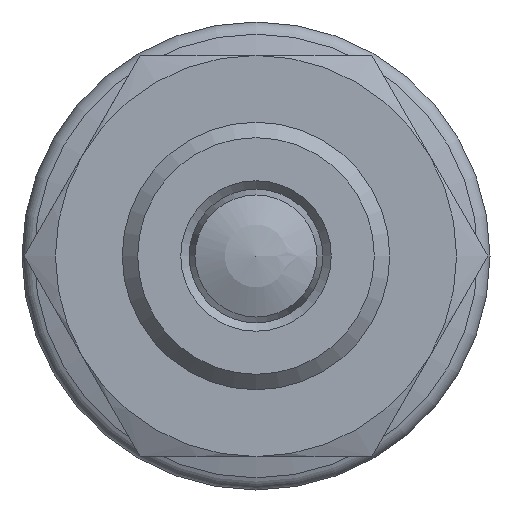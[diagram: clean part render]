
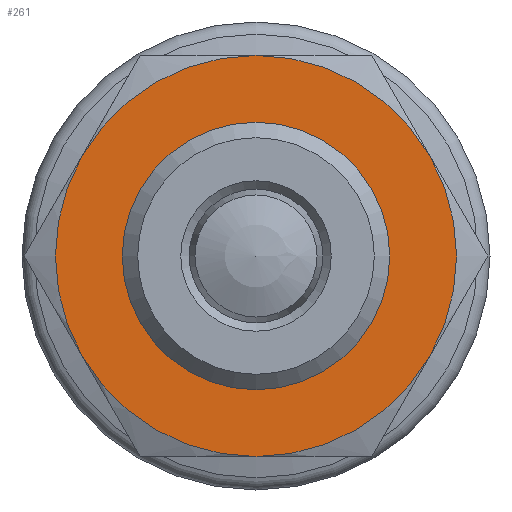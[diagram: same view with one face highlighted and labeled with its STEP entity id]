
A CAD part, left-side view. The second image highlights one B-rep face of the part: STEP entity #261.
In plain terms, the highlighted planar face has unit normal (-1, 0, 0) as drawn and (1, 0, 0) by its records, which use the part's own axes.
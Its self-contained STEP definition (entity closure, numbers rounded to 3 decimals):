
#261 = ADVANCED_FACE( '', ( #441, #442 ), #443, .F. );
#441 = FACE_BOUND( '', #645, .T. );
#442 = FACE_OUTER_BOUND( '', #646, .T. );
#443 = PLANE( '', #647 );
#645 = EDGE_LOOP( '', ( #1011 ) );
#646 = EDGE_LOOP( '', ( #1012, #1013, #1014, #1015, #1016, #1017 ) );
#647 = AXIS2_PLACEMENT_3D( '', #1018, #1019, #1020 );
#1011 = ORIENTED_EDGE( '', *, *, #1231, .F. );
#1012 = ORIENTED_EDGE( '', *, *, #1232, .T. );
#1013 = ORIENTED_EDGE( '', *, *, #1233, .T. );
#1014 = ORIENTED_EDGE( '', *, *, #1234, .T. );
#1015 = ORIENTED_EDGE( '', *, *, #1235, .T. );
#1016 = ORIENTED_EDGE( '', *, *, #1236, .T. );
#1017 = ORIENTED_EDGE( '', *, *, #1237, .T. );
#1018 = CARTESIAN_POINT( '', ( 8., 12., 0. ) );
#1019 = DIRECTION( '', ( -1., 0., 0. ) );
#1020 = DIRECTION( '', ( 0., 0., 1. ) );
#1231 = EDGE_CURVE( '', #1419, #1419, #1420, .T. );
#1232 = EDGE_CURVE( '', #1421, #1422, #1423, .T. );
#1233 = EDGE_CURVE( '', #1422, #1401, #1424, .T. );
#1234 = EDGE_CURVE( '', #1401, #1392, #1425, .T. );
#1235 = EDGE_CURVE( '', #1392, #1413, #1426, .T. );
#1236 = EDGE_CURVE( '', #1413, #1427, #1428, .T. );
#1237 = EDGE_CURVE( '', #1427, #1421, #1429, .T. );
#1392 = VERTEX_POINT( '', #1931 );
#1401 = VERTEX_POINT( '', #1961 );
#1413 = VERTEX_POINT( '', #1999 );
#1419 = VERTEX_POINT( '', #2029 );
#1420 = CIRCLE( '', #2030, 8. );
#1421 = VERTEX_POINT( '', #2031 );
#1422 = VERTEX_POINT( '', #2032 );
#1423 = CIRCLE( '', #2033, 12. );
#1424 = CIRCLE( '', #2034, 12. );
#1425 = CIRCLE( '', #2035, 12. );
#1426 = CIRCLE( '', #2036, 12. );
#1427 = VERTEX_POINT( '', #2037 );
#1428 = CIRCLE( '', #2038, 12. );
#1429 = CIRCLE( '', #2039, 12. );
#1931 = CARTESIAN_POINT( '', ( 8., 0., 12. ) );
#1961 = CARTESIAN_POINT( '', ( 8., 10.392, 6. ) );
#1999 = CARTESIAN_POINT( '', ( 8., -10.392, 6. ) );
#2029 = CARTESIAN_POINT( '', ( 8., 0., -8. ) );
#2030 = AXIS2_PLACEMENT_3D( '', #2293, #2294, #2295 );
#2031 = CARTESIAN_POINT( '', ( 8., 0., -12. ) );
#2032 = CARTESIAN_POINT( '', ( 8., 10.392, -6. ) );
#2033 = AXIS2_PLACEMENT_3D( '', #2296, #2297, #2298 );
#2034 = AXIS2_PLACEMENT_3D( '', #2299, #2300, #2301 );
#2035 = AXIS2_PLACEMENT_3D( '', #2302, #2303, #2304 );
#2036 = AXIS2_PLACEMENT_3D( '', #2305, #2306, #2307 );
#2037 = CARTESIAN_POINT( '', ( 8., -10.392, -6. ) );
#2038 = AXIS2_PLACEMENT_3D( '', #2308, #2309, #2310 );
#2039 = AXIS2_PLACEMENT_3D( '', #2311, #2312, #2313 );
#2293 = CARTESIAN_POINT( '', ( 8., 0., 0. ) );
#2294 = DIRECTION( '', ( 1., 0., 0. ) );
#2295 = DIRECTION( '', ( 0., 0., -1. ) );
#2296 = CARTESIAN_POINT( '', ( 8., 0., 0. ) );
#2297 = DIRECTION( '', ( 1., 0., 0. ) );
#2298 = DIRECTION( '', ( 0., 0., -1. ) );
#2299 = CARTESIAN_POINT( '', ( 8., 0., 0. ) );
#2300 = DIRECTION( '', ( 1., 0., 0. ) );
#2301 = DIRECTION( '', ( 0., 0., -1. ) );
#2302 = CARTESIAN_POINT( '', ( 8., 0., 0. ) );
#2303 = DIRECTION( '', ( 1., 0., 0. ) );
#2304 = DIRECTION( '', ( 0., 0., -1. ) );
#2305 = CARTESIAN_POINT( '', ( 8., 0., 0. ) );
#2306 = DIRECTION( '', ( 1., 0., 0. ) );
#2307 = DIRECTION( '', ( 0., 0., -1. ) );
#2308 = CARTESIAN_POINT( '', ( 8., 0., 0. ) );
#2309 = DIRECTION( '', ( 1., 0., 0. ) );
#2310 = DIRECTION( '', ( 0., 0., -1. ) );
#2311 = CARTESIAN_POINT( '', ( 8., 0., 0. ) );
#2312 = DIRECTION( '', ( 1., 0., 0. ) );
#2313 = DIRECTION( '', ( 0., 0., -1. ) );
